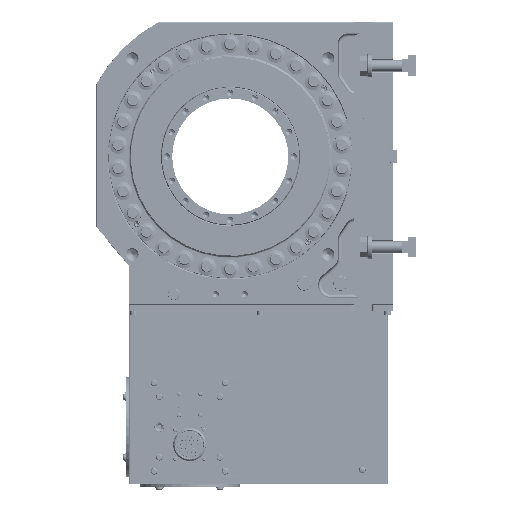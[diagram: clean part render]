
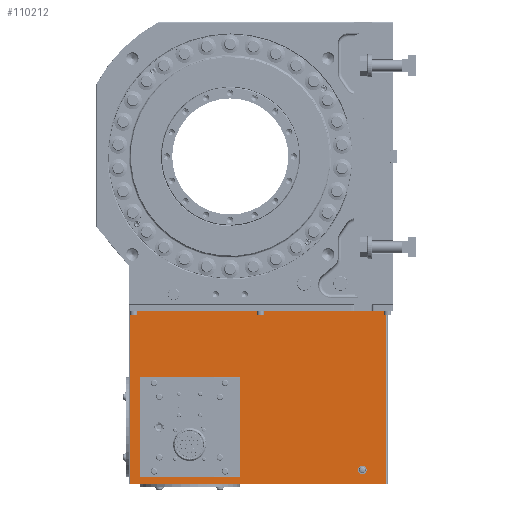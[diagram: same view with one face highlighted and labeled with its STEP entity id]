
A CAD part, left-side view. The second image highlights one B-rep face of the part: STEP entity #110212.
In plain terms, the highlighted planar face has unit normal (-1, 0, 0).
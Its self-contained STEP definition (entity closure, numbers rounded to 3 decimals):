
#3934 = EDGE_CURVE ( 'NONE', #25995, #54363, #130317, .T. ) ;
#4160 = EDGE_CURVE ( 'NONE', #135344, #39861, #26644, .T. ) ;
#4433 = DIRECTION ( 'NONE',  ( 1., 0., 0. ) ) ;
#5246 = CARTESIAN_POINT ( 'NONE',  ( 13., 9., -8. ) ) ;
#5446 = ORIENTED_EDGE ( 'NONE', *, *, #126598, .F. ) ;
#5561 = LINE ( 'NONE', #18762, #18087 ) ;
#8904 = DIRECTION ( 'NONE',  ( 0., 0., -1. ) ) ;
#10281 = EDGE_CURVE ( 'NONE', #80101, #94678, #139396, .T. ) ;
#16339 = CARTESIAN_POINT ( 'NONE',  ( 13., 349., -99. ) ) ;
#16410 = AXIS2_PLACEMENT_3D ( 'NONE', #121714, #55658, #107702 ) ;
#17968 = DIRECTION ( 'NONE',  ( 0., 0., -1. ) ) ;
#18021 = DIRECTION ( 'NONE',  ( 0., -1., 0. ) ) ;
#18087 = VECTOR ( 'NONE', #17968, 1000. ) ;
#18100 = AXIS2_PLACEMENT_3D ( 'NONE', #45021, #111035, #60645 ) ;
#18441 = FACE_OUTER_BOUND ( 'NONE', #20024, .T. ) ;
#18762 = CARTESIAN_POINT ( 'NONE',  ( 13., 9., -8. ) ) ;
#20024 = EDGE_LOOP ( 'NONE', ( #68190, #114180, #79560, #163279 ) ) ;
#20274 = EDGE_CURVE ( 'NONE', #135344, #23172, #35005, .T. ) ;
#22196 = CARTESIAN_POINT ( 'NONE',  ( 13., 9., -8. ) ) ;
#22947 = DIRECTION ( 'NONE',  ( 0., 0., -1. ) ) ;
#23172 = VERTEX_POINT ( 'NONE', #136609 ) ;
#24186 = DIRECTION ( 'NONE',  ( 1., 0., 0. ) ) ;
#24571 = CARTESIAN_POINT ( 'NONE',  ( 13., 362., -8. ) ) ;
#25995 = VERTEX_POINT ( 'NONE', #119466 ) ;
#26644 = LINE ( 'NONE', #62178, #77692 ) ;
#28426 = CARTESIAN_POINT ( 'NONE',  ( 13., 9., -247. ) ) ;
#30153 = CIRCLE ( 'NONE', #101321, 5.75 ) ;
#32459 = DIRECTION ( 'NONE',  ( 0., 1., 0. ) ) ;
#32616 = CARTESIAN_POINT ( 'NONE',  ( 13., 214., -234. ) ) ;
#35005 = CIRCLE ( 'NONE', #47823, 3. ) ;
#35309 = CIRCLE ( 'NONE', #125064, 5.75 ) ;
#36603 = DIRECTION ( 'NONE',  ( 0., 0., 1. ) ) ;
#37072 = EDGE_CURVE ( 'NONE', #114803, #55617, #72486, .T. ) ;
#39861 = VERTEX_POINT ( 'NONE', #52746 ) ;
#40138 = ORIENTED_EDGE ( 'NONE', *, *, #158310, .F. ) ;
#42403 = PLANE ( 'NONE',  #43408 ) ;
#43275 = AXIS2_PLACEMENT_3D ( 'NONE', #77425, #113781, #127834 ) ;
#43408 = AXIS2_PLACEMENT_3D ( 'NONE', #5246, #4433, #32459 ) ;
#43556 = ORIENTED_EDGE ( 'NONE', *, *, #3934, .T. ) ;
#45021 = CARTESIAN_POINT ( 'NONE',  ( 13., 346., -234. ) ) ;
#46073 = CARTESIAN_POINT ( 'NONE',  ( 13., 349., -237. ) ) ;
#47823 = AXIS2_PLACEMENT_3D ( 'NONE', #32616, #68961, #94576 ) ;
#47852 = DIRECTION ( 'NONE',  ( 0., -1., 0. ) ) ;
#48437 = VERTEX_POINT ( 'NONE', #22196 ) ;
#50187 = EDGE_LOOP ( 'NONE', ( #137825, #80250 ) ) ;
#52746 = CARTESIAN_POINT ( 'NONE',  ( 13., 211., -102. ) ) ;
#54363 = VERTEX_POINT ( 'NONE', #58292 ) ;
#55617 = VERTEX_POINT ( 'NONE', #136776 ) ;
#55658 = DIRECTION ( 'NONE',  ( 1., 0., 0. ) ) ;
#57581 = EDGE_LOOP ( 'NONE', ( #132514, #85379, #157944, #160706, #40138, #158838, #5446, #43556 ) ) ;
#58292 = CARTESIAN_POINT ( 'NONE',  ( 13., 346., -99. ) ) ;
#60289 = CARTESIAN_POINT ( 'NONE',  ( 13., 214., -99. ) ) ;
#60645 = DIRECTION ( 'NONE',  ( 0., 0., 1. ) ) ;
#62126 = VECTOR ( 'NONE', #128387, 1000. ) ;
#62178 = CARTESIAN_POINT ( 'NONE',  ( 13., 211., -237. ) ) ;
#63394 = CARTESIAN_POINT ( 'NONE',  ( 13., 362., -8. ) ) ;
#67986 = FACE_BOUND ( 'NONE', #57581, .T. ) ;
#68190 = ORIENTED_EDGE ( 'NONE', *, *, #142615, .T. ) ;
#68961 = DIRECTION ( 'NONE',  ( 1., 0., 0. ) ) ;
#69680 = CARTESIAN_POINT ( 'NONE',  ( 13., 42., -227. ) ) ;
#70417 = EDGE_CURVE ( 'NONE', #91571, #71104, #35309, .T. ) ;
#70512 = EDGE_CURVE ( 'NONE', #71104, #91571, #30153, .T. ) ;
#71104 = VERTEX_POINT ( 'NONE', #135928 ) ;
#72486 = LINE ( 'NONE', #24571, #139249 ) ;
#76179 = CARTESIAN_POINT ( 'NONE',  ( 13., 42., -227. ) ) ;
#77425 = CARTESIAN_POINT ( 'NONE',  ( 13., 346., -102. ) ) ;
#77692 = VECTOR ( 'NONE', #36603, 1000. ) ;
#79560 = ORIENTED_EDGE ( 'NONE', *, *, #110860, .F. ) ;
#80101 = VERTEX_POINT ( 'NONE', #136808 ) ;
#80250 = ORIENTED_EDGE ( 'NONE', *, *, #70512, .T. ) ;
#80584 = VECTOR ( 'NONE', #47852, 1000. ) ;
#85379 = ORIENTED_EDGE ( 'NONE', *, *, #149709, .T. ) ;
#88476 = VERTEX_POINT ( 'NONE', #122778 ) ;
#91546 = LINE ( 'NONE', #141941, #161882 ) ;
#91571 = VERTEX_POINT ( 'NONE', #121557 ) ;
#92758 = FACE_BOUND ( 'NONE', #50187, .T. ) ;
#94576 = DIRECTION ( 'NONE',  ( 0., 0., 1. ) ) ;
#94678 = VERTEX_POINT ( 'NONE', #111049 ) ;
#99266 = VERTEX_POINT ( 'NONE', #60289 ) ;
#101321 = AXIS2_PLACEMENT_3D ( 'NONE', #76179, #24186, #124154 ) ;
#103862 = LINE ( 'NONE', #16339, #114173 ) ;
#107129 = DIRECTION ( 'NONE',  ( 0., 1., 0. ) ) ;
#107702 = DIRECTION ( 'NONE',  ( 0., 0., 1. ) ) ;
#108856 = LINE ( 'NONE', #46073, #158252 ) ;
#109296 = DIRECTION ( 'NONE',  ( 1., 0., 0. ) ) ;
#110212 = ADVANCED_FACE ( 'NONE', ( #92758, #67986, #18441 ), #42403, .F. ) ;
#110860 = EDGE_CURVE ( 'NONE', #114803, #48437, #120622, .T. ) ;
#111035 = DIRECTION ( 'NONE',  ( 1., 0., 0. ) ) ;
#111049 = CARTESIAN_POINT ( 'NONE',  ( 13., 349., -234. ) ) ;
#113781 = DIRECTION ( 'NONE',  ( 1., 0., 0. ) ) ;
#114173 = VECTOR ( 'NONE', #107129, 1000. ) ;
#114180 = ORIENTED_EDGE ( 'NONE', *, *, #137694, .F. ) ;
#114803 = VERTEX_POINT ( 'NONE', #63394 ) ;
#119466 = CARTESIAN_POINT ( 'NONE',  ( 13., 349., -102. ) ) ;
#120622 = LINE ( 'NONE', #158616, #80584 ) ;
#121557 = CARTESIAN_POINT ( 'NONE',  ( 13., 42., -232.75 ) ) ;
#121714 = CARTESIAN_POINT ( 'NONE',  ( 13., 214., -102. ) ) ;
#122778 = CARTESIAN_POINT ( 'NONE',  ( 13., 9., -247. ) ) ;
#124154 = DIRECTION ( 'NONE',  ( 0., 0., -1. ) ) ;
#125064 = AXIS2_PLACEMENT_3D ( 'NONE', #69680, #109296, #159705 ) ;
#126598 = EDGE_CURVE ( 'NONE', #25995, #94678, #108856, .T. ) ;
#127834 = DIRECTION ( 'NONE',  ( 0., 0., 1. ) ) ;
#128387 = DIRECTION ( 'NONE',  ( 0., -1., 0. ) ) ;
#129828 = CIRCLE ( 'NONE', #16410, 3. ) ;
#130317 = CIRCLE ( 'NONE', #43275, 3. ) ;
#131665 = CARTESIAN_POINT ( 'NONE',  ( 13., 211., -234. ) ) ;
#132117 = EDGE_CURVE ( 'NONE', #99266, #54363, #103862, .T. ) ;
#132514 = ORIENTED_EDGE ( 'NONE', *, *, #132117, .F. ) ;
#135344 = VERTEX_POINT ( 'NONE', #131665 ) ;
#135928 = CARTESIAN_POINT ( 'NONE',  ( 13., 42., -221.25 ) ) ;
#136609 = CARTESIAN_POINT ( 'NONE',  ( 13., 214., -237. ) ) ;
#136776 = CARTESIAN_POINT ( 'NONE',  ( 13., 362., -247. ) ) ;
#136808 = CARTESIAN_POINT ( 'NONE',  ( 13., 346., -237. ) ) ;
#137694 = EDGE_CURVE ( 'NONE', #48437, #88476, #5561, .T. ) ;
#137825 = ORIENTED_EDGE ( 'NONE', *, *, #70417, .T. ) ;
#139249 = VECTOR ( 'NONE', #22947, 1000. ) ;
#139396 = CIRCLE ( 'NONE', #18100, 3. ) ;
#141941 = CARTESIAN_POINT ( 'NONE',  ( 13., 349., -237. ) ) ;
#142615 = EDGE_CURVE ( 'NONE', #55617, #88476, #153994, .T. ) ;
#149709 = EDGE_CURVE ( 'NONE', #99266, #39861, #129828, .T. ) ;
#153994 = LINE ( 'NONE', #28426, #62126 ) ;
#157944 = ORIENTED_EDGE ( 'NONE', *, *, #4160, .F. ) ;
#158252 = VECTOR ( 'NONE', #8904, 1000. ) ;
#158310 = EDGE_CURVE ( 'NONE', #80101, #23172, #91546, .T. ) ;
#158616 = CARTESIAN_POINT ( 'NONE',  ( 13., 9., -8. ) ) ;
#158838 = ORIENTED_EDGE ( 'NONE', *, *, #10281, .T. ) ;
#159705 = DIRECTION ( 'NONE',  ( 0., 0., -1. ) ) ;
#160706 = ORIENTED_EDGE ( 'NONE', *, *, #20274, .T. ) ;
#161882 = VECTOR ( 'NONE', #18021, 1000. ) ;
#163279 = ORIENTED_EDGE ( 'NONE', *, *, #37072, .T. ) ;
